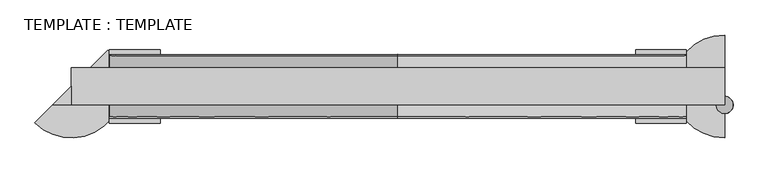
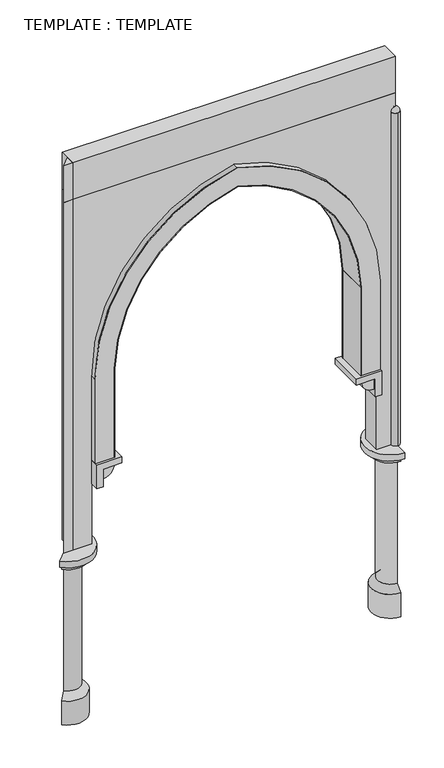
"""IFC4 building model written with IfcOpenShell, lengths in millimetres: plate geometry, TEMPLATE : TEMPLATE."""

from ifc_helpers import new_model, si_unit, point, frame, frame_2d, origin, place, context, project, spatial, polyline, circle_curve, ellipse_curve, trimmed, segment, composite_curve, outline, extrude, source, transform, mapped, element, save
from ifc_brep_helpers import plane_surface, cylinder_surface, revolved_surface, advanced_brep


def template_template_8af3e052(model_context):
    return source(origin(), model_context, "Body", "SolidModel", [
        extrude(outline(polyline([(-1250.0, 0.0), (-1250.0, -71.2450521), (-1321.2450521, -71.2450521), (-1250.0, 0.0)])), frame((0.0, 0.0, 4250.0), z_axis=(0.0, 0.0, 1.0), x_axis=(1.0, 0.0, 0.0)), (0.0, 0.0, 1.0), 300.0),
        extrude(outline(polyline([(1250.0, 71.2450521), (1250.0, -71.2450521), (-1250.0, -71.2450521), (-1250.0, 71.2450521), (1250.0, 71.2450521)])), frame((0.0, 0.0, 4250.0), z_axis=(0.0, 0.0, 1.0), x_axis=(1.0, 0.0, 0.0)), (0.0, 0.0, 1.0), 300.0),
        advanced_brep(
        [(1250.0, -38.7797743, 4103.90625), (1250.0, -103.7103299, 4103.90625)],
        [
            (0, 1),
            (1, 0, circle_curve(frame((1250.0, -71.2450521, 4103.90625), z_axis=(0.0, 0.0, -1.0), x_axis=(-1.0, 0.0, 0.0)), 32.4652778)),
            (0, 1, circle_curve(frame((1250.0, -71.2450521, 4103.90625), z_axis=(0.0, 0.0, -1.0), x_axis=(1.0, 0.0, 0.0)), 32.4652778)),
        ],
        [
            plane_surface(frame((1250.0, 122.2362565, 4103.90625), z_axis=(0.0, 0.0, -1.0), x_axis=(-1.0, 0.0, 0.0))),
            plane_surface(frame((1250.0, 122.2362565, 4103.90625), z_axis=(0.0, 0.0, -1.0), x_axis=(1.0, 0.0, 0.0))),
            revolved_surface(trimmed(ellipse_curve(frame((1250.0, -71.2450521, 4103.90625), z_axis=(0.0, 0.0, -1.0), x_axis=(-1.0, 0.0, 0.0)), 32.4652778, 32.4652778), [point((1250.0, -103.7103299, 4103.90625))], [point((1250.0, -38.7797743, 4103.90625))], True, "CARTESIAN"), (1250.0, 122.2362565, 4103.90625), (0.0, 1.0, 0.0)),
        ],
        [
            (0, [[1, 2]]),
            (1, [[-1, 3]]),
            (2, [[-3, -2]]),
        ],
    ),
        extrude(outline(composite_curve([segment(trimmed(circle_curve(frame_2d((1250.0, -71.2450521)), 32.4652778), [point((1250.0, -103.7103299))], [point((1250.0, -38.7797743))], False, "CARTESIAN"), True, "CONTINUOUS"), segment(trimmed(circle_curve(frame_2d((1250.0, -71.2450521)), 32.4652778), [point((1250.0, -38.7797743))], [point((1250.0, -103.7103299))], False, "CARTESIAN"), True, "CONTINUOUS")], self_intersect=False)), frame((0.0, 0.0, 1375.0), z_axis=(0.0, 0.0, 1.0), x_axis=(1.0, 0.0, 0.0)), (0.0, 0.0, 1.0), 2728.90625),
        extrude(outline(composite_curve([segment(polyline([(2062.5, -1103.90625), (2062.5, -952.8125), (2789.7201638, -952.8125)]), True, "CONTINUOUS"), segment(trimmed(circle_curve(frame_2d((2770.9553186, 249.8536177)), 1202.8125), [point((2789.7201638, -952.8125))], [point((3947.5313169, 0.0))], True, "CARTESIAN"), True, "CONTINUOUS"), segment(trimmed(circle_curve(frame_2d((2770.9553186, -249.8536177)), 1202.8125), [point((3947.5313169, 0.0))], [point((2789.7201638, 952.8125))], True, "CARTESIAN"), True, "CONTINUOUS"), segment(polyline([(2789.7201638, 952.8125), (2062.5, 952.8125), (2062.5, 1103.90625), (2751.0466695, 1103.90625)]), True, "CONTINUOUS"), segment(trimmed(circle_curve(frame_2d((2770.9553186, -249.8536177)), 1353.90625), [point((2751.0466695, 1103.90625))], [point((4101.6075284, 0.0))], False, "CARTESIAN"), True, "CONTINUOUS"), segment(trimmed(circle_curve(frame_2d((2770.9553186, 249.8536177)), 1353.90625), [point((4101.6075284, 0.0))], [point((2751.0466695, -1103.90625))], False, "CARTESIAN"), True, "CONTINUOUS"), segment(polyline([(2751.0466695, -1103.90625), (2062.5, -1103.90625)]), True, "CONTINUOUS")], self_intersect=False)), frame((0.0, 116.8675781, 0.0), z_axis=(0.0, 1.0, 0.0), x_axis=(0.0, 0.0, 1.0)), (0.0, 0.0, 1.0), 5.0),
        extrude(outline(polyline([(-1250.0, 0.0), (-1250.0, -71.2450521), (-1321.2450521, -71.2450521), (-1250.0, 0.0)])), frame((0.0, 0.0, 1375.0), z_axis=(0.0, 0.0, 1.0), x_axis=(1.0, 0.0, 0.0)), (0.0, 0.0, 1.0), 2875.0),
        extrude(outline(composite_curve([segment(polyline([(2789.6812853, 952.813106), (2789.7591277, 957.8125)]), True, "CONTINUOUS"), segment(trimmed(circle_curve(frame_2d((2770.9553186, -249.8536177)), 1207.8125), [point((2789.7591277, 957.8125))], [point((3952.642335, 0.0))], False, "CARTESIAN"), True, "CONTINUOUS"), segment(trimmed(circle_curve(frame_2d((2770.9553186, 249.8536177)), 1207.8125), [point((3952.642335, 0.0))], [point((2789.7591277, -957.8125))], False, "CARTESIAN"), True, "CONTINUOUS"), segment(polyline([(2789.7591277, -957.8125), (2789.6812853, -952.813106)]), True, "CONTINUOUS"), segment(trimmed(circle_curve(frame_2d((2770.9553186, 249.8536177)), 1202.8125), [point((2789.6812853, -952.813106))], [point((3947.5313169, 0.0))], True, "CARTESIAN"), True, "CONTINUOUS"), segment(trimmed(circle_curve(frame_2d((2770.9553186, -249.8536177)), 1202.8125), [point((3947.5313169, 0.0))], [point((2789.6812853, 952.813106))], True, "CARTESIAN"), True, "CONTINUOUS")], self_intersect=False)), frame((0.0, -121.8675781, 0.0), z_axis=(0.0, 1.0, 0.0), x_axis=(0.0, 0.0, 1.0)), (0.0, 0.0, 1.0), 238.7351563),
        extrude(outline(polyline([(957.8125, 116.8675781), (957.8125, -121.8675781), (952.8125, -121.8675781), (952.8125, 116.8675781), (957.8125, 116.8675781)])), frame((0.0, 0.0, 2062.5), z_axis=(0.0, 0.0, 1.0), x_axis=(1.0, 0.0, 0.0)), (0.0, 0.0, 1.0), 727.2591277),
        extrude(outline(polyline([(-952.8125, 116.8675781), (-952.8125, -121.8675781), (-957.8125, -121.8675781), (-957.8125, 116.8675781), (-952.8125, 116.8675781)])), frame((0.0, 0.0, 2062.5), z_axis=(0.0, 0.0, 1.0), x_axis=(1.0, 0.0, 0.0)), (0.0, 0.0, 1.0), 727.2591277),
        extrude(outline(composite_curve([segment(polyline([(2013.8020833, 1055.2083333), (2013.8020833, 957.8125)]), True, "CONTINUOUS"), segment(trimmed(circle_curve(frame_2d((2013.8020833, 1055.2083333)), 97.3958333), [point((2013.8020833, 957.8125))], [point((1916.40625, 1055.2083333))], False, "CARTESIAN"), True, "CONTINUOUS"), segment(polyline([(1916.40625, 1055.2083333), (2013.8020833, 1055.2083333)]), True, "CONTINUOUS")], self_intersect=False)), frame((0.0, -121.8675781, 0.0), z_axis=(0.0, 1.0, 0.0), x_axis=(0.0, 0.0, 1.0)), (0.0, 0.0, 1.0), 238.7351563),
        extrude(outline(composite_curve([segment(polyline([(2013.8020833, -1055.2083333), (1916.40625, -1055.2083333)]), True, "CONTINUOUS"), segment(trimmed(circle_curve(frame_2d((2013.8020833, -1055.2083333)), 97.3958333), [point((1916.40625, -1055.2083333))], [point((2013.8020833, -957.8125))], False, "CARTESIAN"), True, "CONTINUOUS"), segment(polyline([(2013.8020833, -957.8125), (2013.8020833, -1055.2083333)]), True, "CONTINUOUS")], self_intersect=False)), frame((0.0, -121.8675781, 0.0), z_axis=(0.0, 1.0, 0.0), x_axis=(0.0, 0.0, 1.0)), (0.0, 0.0, 1.0), 238.7351563),
        advanced_brep(
        [(-1110.8841065, 139.1158935, 1375.0), (-1110.8841065, 139.1158935, 1324.3541667), (-1146.6961187, 103.3038813, 1324.3541667), (-1146.6961187, 103.3038813, 1273.7083333), (-1181.1307458, 68.8692542, 1273.7083333), (-1181.1307458, 68.8692542, 245.4375), (-1146.6961187, 103.3038813, 194.7916667), (-1146.6961187, 103.3038813, 0.0), (-1250.0, 0.0, 0.0), (-1250.0, 0.0, 1375.0), (-1389.1158935, -139.1158935, 1375.0), (-1353.3038813, -103.3038813, 0.0), (-1353.3038813, -103.3038813, 194.7916667), (-1318.8692542, -68.8692542, 245.4375), (-1318.8692542, -68.8692542, 1273.7083333), (-1353.3038813, -103.3038813, 1273.7083333), (-1353.3038813, -103.3038813, 1324.3541667), (-1389.1158935, -139.1158935, 1324.3541667)],
        [
            (0, 1),
            (1, 2),
            (2, 3),
            (3, 4),
            (4, 5),
            (5, 6),
            (6, 7),
            (7, 8),
            (8, 9),
            (9, 0),
            (10, 9),
            (8, 11),
            (11, 12),
            (12, 13),
            (13, 14),
            (14, 15),
            (15, 16),
            (16, 17),
            (17, 10),
            (17, 1, circle_curve(frame((-1250.0, 0.0, 1324.3541667), z_axis=(0.0, 0.0, 1.0), x_axis=(0.7071067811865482, 0.707106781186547, 0.0)), 196.7395833)),
            (0, 10, circle_curve(frame((-1250.0, 0.0, 1375.0), z_axis=(0.0, 0.0, -1.0), x_axis=(0.7071067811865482, 0.707106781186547, 0.0)), 196.7395833)),
            (16, 2, circle_curve(frame((-1250.0, 0.0, 1324.3541667), z_axis=(0.0, 0.0, 1.0), x_axis=(0.7071067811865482, 0.707106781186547, 0.0)), 146.09375)),
            (15, 3, circle_curve(frame((-1250.0, 0.0, 1273.7083333), z_axis=(0.0, 0.0, 1.0), x_axis=(0.7071067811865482, 0.707106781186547, 0.0)), 146.09375)),
            (14, 4, circle_curve(frame((-1250.0, 0.0, 1273.7083333), z_axis=(0.0, 0.0, 1.0), x_axis=(0.7071067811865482, 0.707106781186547, 0.0)), 97.3958333)),
            (13, 5, circle_curve(frame((-1250.0, 0.0, 245.4375), z_axis=(0.0, 0.0, 1.0), x_axis=(0.7071067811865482, 0.707106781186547, 0.0)), 97.3958333)),
            (12, 6, circle_curve(frame((-1250.0, 0.0, 194.7916667), z_axis=(0.0, 0.0, 1.0), x_axis=(0.7071067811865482, 0.707106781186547, 0.0)), 146.09375)),
            (11, 7, circle_curve(frame((-1250.0, 0.0, 0.0), z_axis=(0.0, 0.0, 1.0), x_axis=(0.7071067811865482, 0.707106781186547, 0.0)), 146.09375)),
        ],
        [
            plane_surface(frame((-1250.0, 0.0, -1400.0), z_axis=(-0.707106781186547, 0.7071067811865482, 0.0), x_axis=(0.7071067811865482, 0.707106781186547, 0.0))),
            plane_surface(frame((-1250.0, 0.0, -1400.0), z_axis=(-0.7071067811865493, 0.7071067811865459, 0.0), x_axis=(-0.7071067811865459, -0.7071067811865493, 0.0))),
            cylinder_surface(frame((-1250.0, 0.0, -1400.0), z_axis=(0.0, 0.0, 1.0), x_axis=(0.7071067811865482, 0.707106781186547, 0.0)), 196.7395833),
            plane_surface(frame((-1250.0, 0.0, 1324.3541667), z_axis=(0.0, 0.0, -1.0000000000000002), x_axis=(0.7071067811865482, 0.707106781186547, 0.0))),
            cylinder_surface(frame((-1250.0, 0.0, -1400.0), z_axis=(0.0, 0.0, 1.0), x_axis=(0.7071067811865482, 0.707106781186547, 0.0)), 146.09375),
            plane_surface(frame((-1250.0, 0.0, 1273.7083333), z_axis=(0.0, 0.0, -1.0000000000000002), x_axis=(0.7071067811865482, 0.707106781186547, 0.0))),
            cylinder_surface(frame((-1250.0, 0.0, -1400.0), z_axis=(0.0, 0.0, 1.0), x_axis=(0.7071067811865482, 0.707106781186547, 0.0)), 97.3958333),
            revolved_surface(polyline([(-1146.6961187, 103.3038813, 194.7916667), (-1181.1307458, 68.8692542, 245.4375)]), (-1250.0, 0.0, -1400.0), (0.0, 0.0, 1.0)),
            plane_surface(frame((-1250.0, 0.0, 0.0), z_axis=(0.0, 0.0, -1.0000000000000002), x_axis=(0.7071067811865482, 0.707106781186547, 0.0))),
            plane_surface(frame((-1250.0, 0.0, 1375.0), z_axis=(0.0, 0.0, 1.0000000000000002), x_axis=(0.7071067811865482, 0.707106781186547, 0.0))),
        ],
        [
            (0, [[1, 2, 3, 4, 5, 6, 7, 8, 9, 10]]),
            (1, [[11, -9, 12, 13, 14, 15, 16, 17, 18, 19]]),
            (2, [[-19, 20, -1, 21]]),
            (3, [[-18, 22, -2, -20]]),
            (4, [[-17, 23, -3, -22]]),
            (5, [[-16, 24, -4, -23]]),
            (6, [[-15, 25, -5, -24]]),
            (7, [[-14, 26, -6, -25]]),
            (4, [[-13, 27, -7, -26]]),
            (8, [[-12, -8, -27]]),
            (9, [[-11, -21, -10]]),
        ],
    ),
        extrude(outline(polyline([(2062.5, 1103.90625), (2062.5, 909.1145833), (2013.8020833, 909.1145833), (2013.8020833, 1055.2083333), (1867.7083333, 1055.2083333), (1867.7083333, 1103.90625), (2062.5, 1103.90625)])), frame((0.0, -141.2165365, 0.0), z_axis=(0.0, 1.0, 0.0), x_axis=(0.0, 0.0, 1.0)), (0.0, 0.0, 1.0), 282.4330729),
        extrude(outline(polyline([(2062.5, -1103.90625), (1867.7083333, -1103.90625), (1867.7083333, -1055.2083333), (2013.8020833, -1055.2083333), (2013.8020833, -909.1145833), (2062.5, -909.1145833), (2062.5, -1103.90625)])), frame((0.0, -141.2165365, 0.0), z_axis=(0.0, 1.0, 0.0), x_axis=(0.0, 0.0, 1.0)), (0.0, 0.0, 1.0), 282.4330729),
        advanced_brep(
        [(1250.0, 196.7395833, 1375.0), (1250.0, 0.0, 1375.0), (1250.0, 0.0, 0.0), (1250.0, 146.09375, 0.0), (1250.0, 146.09375, 194.7916667), (1250.0, 97.3958333, 245.4375), (1250.0, 97.3958333, 1273.7083333), (1250.0, 146.09375, 1273.7083333), (1250.0, 146.09375, 1324.3541667), (1250.0, 196.7395833, 1324.3541667), (1250.0, -196.7395833, 1375.0), (1250.0, -196.7395833, 1324.3541667), (1250.0, -146.09375, 1324.3541667), (1250.0, -146.09375, 1273.7083333), (1250.0, -97.3958333, 1273.7083333), (1250.0, -97.3958333, 245.4375), (1250.0, -146.09375, 194.7916667), (1250.0, -146.09375, 0.0)],
        [
            (0, 1),
            (1, 2),
            (2, 3),
            (3, 4),
            (4, 5),
            (5, 6),
            (6, 7),
            (7, 8),
            (8, 9),
            (9, 0),
            (10, 11),
            (11, 12),
            (12, 13),
            (13, 14),
            (14, 15),
            (15, 16),
            (16, 17),
            (17, 2),
            (1, 10),
            (10, 0, circle_curve(frame((1250.0, 0.0, 1375.0), z_axis=(0.0, 0.0, -1.0), x_axis=(0.0, 1.0000000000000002, 0.0)), 196.7395833)),
            (9, 11, circle_curve(frame((1250.0, 0.0, 1324.3541667), z_axis=(0.0, 0.0, 1.0), x_axis=(0.0, 1.0000000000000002, 0.0)), 196.7395833)),
            (8, 12, circle_curve(frame((1250.0, 0.0, 1324.3541667), z_axis=(0.0, 0.0, 1.0), x_axis=(0.0, 1.0000000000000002, 0.0)), 146.09375)),
            (7, 13, circle_curve(frame((1250.0, 0.0, 1273.7083333), z_axis=(0.0, 0.0, 1.0), x_axis=(0.0, 1.0000000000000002, 0.0)), 146.09375)),
            (6, 14, circle_curve(frame((1250.0, 0.0, 1273.7083333), z_axis=(0.0, 0.0, 1.0), x_axis=(0.0, 1.0000000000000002, 0.0)), 97.3958333)),
            (5, 15, circle_curve(frame((1250.0, 0.0, 245.4375), z_axis=(0.0, 0.0, 1.0), x_axis=(0.0, 1.0000000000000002, 0.0)), 97.3958333)),
            (4, 16, circle_curve(frame((1250.0, 0.0, 194.7916667), z_axis=(0.0, 0.0, 1.0), x_axis=(0.0, 1.0000000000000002, 0.0)), 146.09375)),
            (3, 17, circle_curve(frame((1250.0, 0.0, 0.0), z_axis=(0.0, 0.0, 1.0), x_axis=(0.0, 1.0000000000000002, 0.0)), 146.09375)),
        ],
        [
            plane_surface(frame((1250.0, 0.0, -1400.0), z_axis=(1.0, 0.0, 0.0), x_axis=(0.0, 1.0, 0.0))),
            plane_surface(frame((1250.0, 0.0, -1400.0), z_axis=(1.0, 0.0, 0.0), x_axis=(0.0, -1.0, 0.0))),
            cylinder_surface(frame((1250.0, 0.0, -1400.0), z_axis=(0.0, 0.0, -1.0), x_axis=(0.0, 1.0000000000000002, 0.0)), 196.7395833),
            plane_surface(frame((1250.0, 0.0, 1324.3541667), z_axis=(0.0, 0.0, -1.0), x_axis=(0.0, 1.0, 0.0))),
            cylinder_surface(frame((1250.0, 0.0, -1400.0), z_axis=(0.0, 0.0, -1.0), x_axis=(0.0, 1.0000000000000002, 0.0)), 146.09375),
            plane_surface(frame((1250.0, 0.0, 1273.7083333), z_axis=(0.0, 0.0, -1.0), x_axis=(0.0, 1.0, 0.0))),
            cylinder_surface(frame((1250.0, 0.0, -1400.0), z_axis=(0.0, 0.0, -1.0), x_axis=(0.0, 1.0000000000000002, 0.0)), 97.3958333),
            revolved_surface(polyline([(1250.0, 97.3958333, 245.4375), (1250.0, 146.09375, 194.7916667)]), (1250.0, 0.0, -1400.0), (0.0, 0.0, -1.0)),
            plane_surface(frame((1250.0, 0.0, 0.0), z_axis=(0.0, 0.0, -1.0), x_axis=(0.0, 1.0, 0.0))),
            plane_surface(frame((1250.0, 0.0, 1375.0), z_axis=(0.0, 0.0, 1.0), x_axis=(0.0, 1.0, 0.0))),
        ],
        [
            (0, [[1, 2, 3, 4, 5, 6, 7, 8, 9, 10]]),
            (1, [[11, 12, 13, 14, 15, 16, 17, 18, -2, 19]]),
            (2, [[-11, 20, -10, 21]]),
            (3, [[-12, -21, -9, 22]]),
            (4, [[-13, -22, -8, 23]]),
            (5, [[-14, -23, -7, 24]]),
            (6, [[-15, -24, -6, 25]]),
            (7, [[-16, -25, -5, 26]]),
            (4, [[-17, -26, -4, 27]]),
            (8, [[-18, -27, -3]]),
            (9, [[-19, -1, -20]]),
        ],
    ),
        extrude(outline(composite_curve([segment(polyline([(1375.0, 1250.0), (4250.0, 1250.0), (4250.0, -1250.0), (1375.0, -1250.0), (1375.0, -1103.90625), (2790.8639676, -1103.90625)]), True, "CONTINUOUS"), segment(trimmed(circle_curve(frame_2d((2770.9553186, 249.8536177)), 1353.90625), [point((2790.8639676, -1103.90625))], [point((4101.6075284, 0.0))], True, "CARTESIAN"), True, "CONTINUOUS"), segment(trimmed(circle_curve(frame_2d((2770.9553186, -249.8536177)), 1353.90625), [point((4101.6075284, 0.0))], [point((2790.8639676, 1103.90625))], True, "CARTESIAN"), True, "CONTINUOUS"), segment(polyline([(2790.8639676, 1103.90625), (1375.0, 1103.90625), (1375.0, 1250.0)]), True, "CONTINUOUS")], self_intersect=False)), frame((0.0, -71.2450521, 0.0), z_axis=(0.0, 1.0, 0.0), x_axis=(0.0, 0.0, 1.0)), (0.0, 0.0, 1.0), 142.4901042),
        extrude(outline(composite_curve([segment(trimmed(circle_curve(frame_2d((2770.9553186, 249.8536177)), 1353.90625), [point((4101.6075284, 0.0))], [point((2790.8639676, -1103.90625))], False, "CARTESIAN"), True, "CONTINUOUS"), segment(polyline([(2790.8639676, -1103.90625), (2062.5, -1103.90625), (2062.5, -957.8125), (2789.7591277, -957.8125)]), True, "CONTINUOUS"), segment(trimmed(circle_curve(frame_2d((2770.9553186, 249.8536177)), 1207.8125), [point((2789.7591277, -957.8125))], [point((3952.642335, 0.0))], True, "CARTESIAN"), True, "CONTINUOUS"), segment(trimmed(circle_curve(frame_2d((2770.9553186, -249.8536177)), 1207.8125), [point((3952.642335, 0.0))], [point((2789.7591277, 957.8125))], True, "CARTESIAN"), True, "CONTINUOUS"), segment(polyline([(2789.7591277, 957.8125), (2062.5, 957.8125), (2062.5, 1103.90625), (2790.8639676, 1103.90625)]), True, "CONTINUOUS"), segment(trimmed(circle_curve(frame_2d((2770.9553186, -249.8536177)), 1353.90625), [point((2790.8639676, 1103.90625))], [point((4101.6075284, 0.0))], False, "CARTESIAN"), True, "CONTINUOUS")], self_intersect=False)), frame((0.0, -121.8675781, 0.0), z_axis=(0.0, 1.0, 0.0), x_axis=(0.0, 0.0, 1.0)), (0.0, 0.0, 1.0), 5.0),
        extrude(outline(polyline([(-957.8125, -116.8675781), (-1103.90625, -116.8675781), (-1103.90625, 116.8675781), (-957.8125, 116.8675781), (-957.8125, -116.8675781)])), frame((0.0, 0.0, 2062.5), z_axis=(0.0, 0.0, 1.0), x_axis=(1.0, 0.0, 0.0)), (0.0, 0.0, 1.0), 687.5),
        extrude(outline(polyline([(957.8125, -116.8675781), (957.8125, 116.8675781), (1103.90625, 116.8675781), (1103.90625, -116.8675781), (957.8125, -116.8675781)])), frame((0.0, 0.0, 2062.5), z_axis=(0.0, 0.0, 1.0), x_axis=(1.0, 0.0, 0.0)), (0.0, 0.0, 1.0), 687.5),
        extrude(outline(composite_curve([segment(polyline([(2752.0409607, -1103.920507), (2754.0819214, -957.841014)]), True, "CONTINUOUS"), segment(trimmed(circle_curve(frame_2d((2770.9553186, 249.8536177)), 1207.8125), [point((2754.0819214, -957.841014))], [point((3952.642335, 0.0))], True, "CARTESIAN"), True, "CONTINUOUS"), segment(trimmed(circle_curve(frame_2d((2770.9553186, -249.8536177)), 1207.8125), [point((3952.642335, 0.0))], [point((2754.0819214, 957.841014))], True, "CARTESIAN"), True, "CONTINUOUS"), segment(polyline([(2754.0819214, 957.841014), (2752.0409607, 1103.920507)]), True, "CONTINUOUS"), segment(trimmed(circle_curve(frame_2d((2770.9553186, -249.8536177)), 1353.90625), [point((2752.0409607, 1103.920507))], [point((4101.6075284, 0.0))], False, "CARTESIAN"), True, "CONTINUOUS"), segment(trimmed(circle_curve(frame_2d((2770.9553186, 249.8536177)), 1353.90625), [point((4101.6075284, 0.0))], [point((2752.0409607, -1103.920507))], False, "CARTESIAN"), True, "CONTINUOUS")], self_intersect=False)), frame((0.0, -116.8675781, 0.0), z_axis=(0.0, 1.0, 0.0), x_axis=(0.0, 0.0, 1.0)), (0.0, 0.0, 1.0), 233.7351563),
    ])


if __name__ == "__main__":
    model = new_model("IFC4")
    model_context = context("Model", 3, world=origin())
    ifc_project = project(units=[si_unit("LENGTHUNIT", "METRE", prefix="MILLI")], contexts=[model_context])
    site = spatial("IfcSite", under=ifc_project)
    building = spatial("IfcBuilding", under=site)
    placement = place(None, origin())
    template_template_shape = template_template_8af3e052(model_context)
    element("IfcPlate", 1, ObjectType="TEMPLATE : TEMPLATE", at=placement, inside=building, context=model_context, shape_type="MappedRepresentation", body=[
        mapped(template_template_shape, transform((0.0, 0.0, 0.0), x_axis=(1.0, 0.0, 0.0), y_axis=(0.0, 1.0, 0.0), z_axis=(0.0, 0.0, 1.0))),
    ])
    save(model, "model.ifc")
